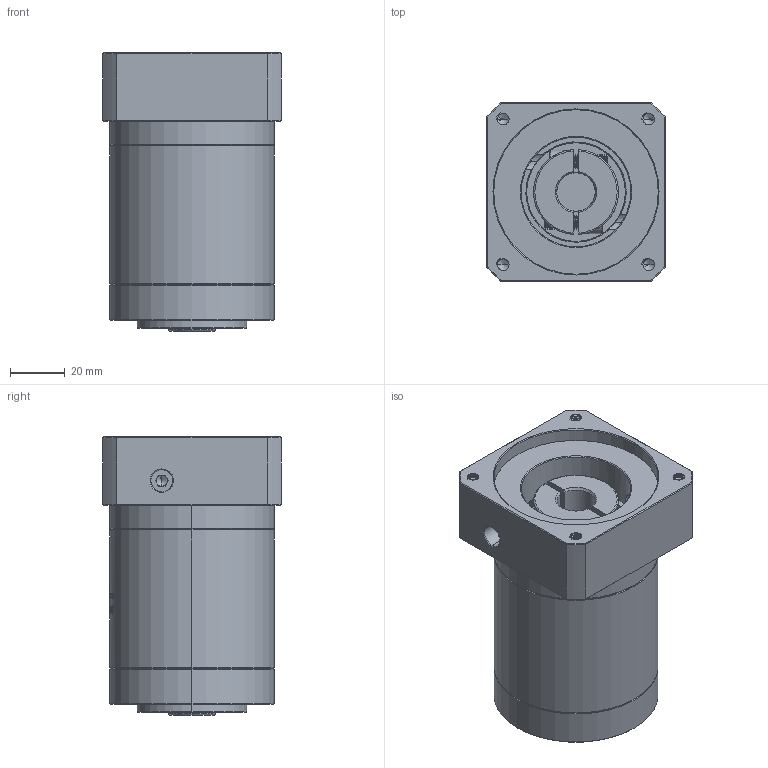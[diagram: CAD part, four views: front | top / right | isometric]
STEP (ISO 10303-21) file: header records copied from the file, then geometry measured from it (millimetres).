
FILE_DESCRIPTION (( 'STEP AP214' ), '1' );
FILE_NAME ('ZE60-K10-L2-14-60-75-M5.STEP', '2022-04-17T15:34:24', ( '' ), ( 'Microsoft' ), 'SwSTEP 2.0', 'SolidWorks 2016', '' );
FILE_SCHEMA (( 'AUTOMOTIVE_DESIGN' ));
Length unit declared in the file: millimetre
Products named in the file (1): ZE60-K10-L2-14-60-75-M5
Bounding box: 65 x 65 x 101.5 mm (x, y, z)
Volume: 268377.9 mm3; surface area: 47625.3 mm2
Topology: 6 solids, 6 shells, 1678 faces, 4568 edges, 2962 vertices
Faces by surface type: plane 730, cylinder 412, bspline 304, cone 214, torus 18
Entity records: 99078 total; most frequent: CARTESIAN_POINT 42460, ORIENTED_EDGE 9096, DIRECTION 6521, EDGE_CURVE 4548, VERTEX_POINT 2962, VECTOR 2303, LINE 2303, AXIS2_PLACEMENT_3D 2109
